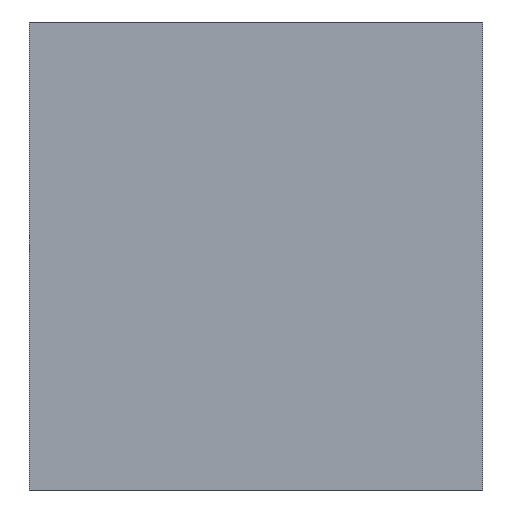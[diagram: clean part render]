
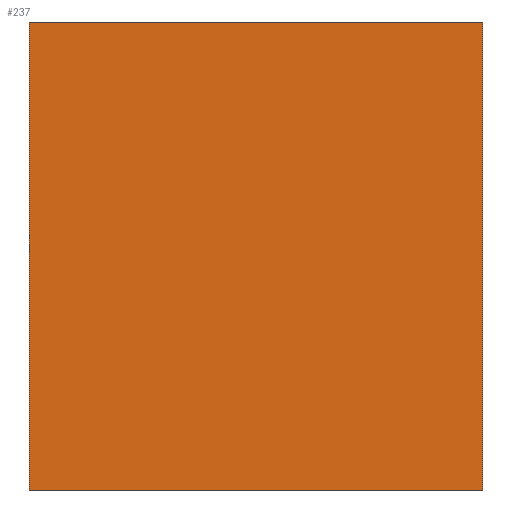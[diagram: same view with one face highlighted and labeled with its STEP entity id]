
A CAD part, front view. The second image highlights one B-rep face of the part: STEP entity #237.
In plain terms, the highlighted planar face has unit normal (0, -1, 0).
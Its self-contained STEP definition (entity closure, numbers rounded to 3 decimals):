
#21 = EDGE_CURVE('',#22,#24,#26,.T.);
#22 = VERTEX_POINT('',#23);
#23 = CARTESIAN_POINT('',(-80.,-237.,122.5));
#24 = VERTEX_POINT('',#25);
#25 = CARTESIAN_POINT('',(-80.,-237.,287.5));
#26 = SURFACE_CURVE('',#27,(#31,#43),.PCURVE_S1.);
#27 = LINE('',#28,#29);
#28 = CARTESIAN_POINT('',(-80.,-237.,122.5));
#29 = VECTOR('',#30,1.);
#30 = DIRECTION('',(0.,0.,1.));
#31 = PCURVE('',#32,#37);
#32 = PLANE('',#33);
#33 = AXIS2_PLACEMENT_3D('',#34,#35,#36);
#34 = CARTESIAN_POINT('',(-80.,-237.,122.5));
#35 = DIRECTION('',(1.,0.,0.));
#36 = DIRECTION('',(0.,0.,1.));
#37 = DEFINITIONAL_REPRESENTATION('',(#38),#42);
#38 = LINE('',#39,#40);
#39 = CARTESIAN_POINT('',(0.,0.));
#40 = VECTOR('',#41,1.);
#41 = DIRECTION('',(1.,0.));
#42 = ( GEOMETRIC_REPRESENTATION_CONTEXT(2) 
PARAMETRIC_REPRESENTATION_CONTEXT() REPRESENTATION_CONTEXT('2D SPACE',''
  ) );
#43 = PCURVE('',#44,#49);
#44 = PLANE('',#45);
#45 = AXIS2_PLACEMENT_3D('',#46,#47,#48);
#46 = CARTESIAN_POINT('',(-80.,-237.,122.5));
#47 = DIRECTION('',(0.,1.,0.));
#48 = DIRECTION('',(0.,0.,1.));
#49 = DEFINITIONAL_REPRESENTATION('',(#50),#54);
#50 = LINE('',#51,#52);
#51 = CARTESIAN_POINT('',(0.,0.));
#52 = VECTOR('',#53,1.);
#53 = DIRECTION('',(1.,0.));
#54 = ( GEOMETRIC_REPRESENTATION_CONTEXT(2) 
PARAMETRIC_REPRESENTATION_CONTEXT() REPRESENTATION_CONTEXT('2D SPACE',''
  ) );
#72 = PLANE('',#73);
#73 = AXIS2_PLACEMENT_3D('',#74,#75,#76);
#74 = CARTESIAN_POINT('',(-80.,-237.,122.5));
#75 = DIRECTION('',(0.,0.,1.));
#76 = DIRECTION('',(1.,0.,0.));
#126 = PLANE('',#127);
#127 = AXIS2_PLACEMENT_3D('',#128,#129,#130);
#128 = CARTESIAN_POINT('',(-80.,-237.,287.5));
#129 = DIRECTION('',(0.,0.,1.));
#130 = DIRECTION('',(1.,0.,0.));
#141 = EDGE_CURVE('',#142,#144,#146,.T.);
#142 = VERTEX_POINT('',#143);
#143 = CARTESIAN_POINT('',(80.,-237.,122.5));
#144 = VERTEX_POINT('',#145);
#145 = CARTESIAN_POINT('',(80.,-237.,287.5));
#146 = SURFACE_CURVE('',#147,(#151,#163),.PCURVE_S1.);
#147 = LINE('',#148,#149);
#148 = CARTESIAN_POINT('',(80.,-237.,122.5));
#149 = VECTOR('',#150,1.);
#150 = DIRECTION('',(0.,0.,1.));
#151 = PCURVE('',#152,#157);
#152 = PLANE('',#153);
#153 = AXIS2_PLACEMENT_3D('',#154,#155,#156);
#154 = CARTESIAN_POINT('',(80.,-237.,122.5));
#155 = DIRECTION('',(1.,0.,0.));
#156 = DIRECTION('',(0.,0.,1.));
#157 = DEFINITIONAL_REPRESENTATION('',(#158),#162);
#158 = LINE('',#159,#160);
#159 = CARTESIAN_POINT('',(0.,0.));
#160 = VECTOR('',#161,1.);
#161 = DIRECTION('',(1.,0.));
#162 = ( GEOMETRIC_REPRESENTATION_CONTEXT(2) 
PARAMETRIC_REPRESENTATION_CONTEXT() REPRESENTATION_CONTEXT('2D SPACE',''
  ) );
#163 = PCURVE('',#44,#164);
#164 = DEFINITIONAL_REPRESENTATION('',(#165),#169);
#165 = LINE('',#166,#167);
#166 = CARTESIAN_POINT('',(0.,160.));
#167 = VECTOR('',#168,1.);
#168 = DIRECTION('',(1.,0.));
#169 = ( GEOMETRIC_REPRESENTATION_CONTEXT(2) 
PARAMETRIC_REPRESENTATION_CONTEXT() REPRESENTATION_CONTEXT('2D SPACE',''
  ) );
#237 = ADVANCED_FACE('',(#238),#44,.F.);
#238 = FACE_BOUND('',#239,.F.);
#239 = EDGE_LOOP('',(#240,#261,#262,#283));
#240 = ORIENTED_EDGE('',*,*,#241,.F.);
#241 = EDGE_CURVE('',#22,#142,#242,.T.);
#242 = SURFACE_CURVE('',#243,(#247,#254),.PCURVE_S1.);
#243 = LINE('',#244,#245);
#244 = CARTESIAN_POINT('',(-80.,-237.,122.5));
#245 = VECTOR('',#246,1.);
#246 = DIRECTION('',(1.,0.,0.));
#247 = PCURVE('',#44,#248);
#248 = DEFINITIONAL_REPRESENTATION('',(#249),#253);
#249 = LINE('',#250,#251);
#250 = CARTESIAN_POINT('',(0.,0.));
#251 = VECTOR('',#252,1.);
#252 = DIRECTION('',(0.,1.));
#253 = ( GEOMETRIC_REPRESENTATION_CONTEXT(2) 
PARAMETRIC_REPRESENTATION_CONTEXT() REPRESENTATION_CONTEXT('2D SPACE',''
  ) );
#254 = PCURVE('',#72,#255);
#255 = DEFINITIONAL_REPRESENTATION('',(#256),#260);
#256 = LINE('',#257,#258);
#257 = CARTESIAN_POINT('',(0.,0.));
#258 = VECTOR('',#259,1.);
#259 = DIRECTION('',(1.,0.));
#260 = ( GEOMETRIC_REPRESENTATION_CONTEXT(2) 
PARAMETRIC_REPRESENTATION_CONTEXT() REPRESENTATION_CONTEXT('2D SPACE',''
  ) );
#261 = ORIENTED_EDGE('',*,*,#21,.T.);
#262 = ORIENTED_EDGE('',*,*,#263,.T.);
#263 = EDGE_CURVE('',#24,#144,#264,.T.);
#264 = SURFACE_CURVE('',#265,(#269,#276),.PCURVE_S1.);
#265 = LINE('',#266,#267);
#266 = CARTESIAN_POINT('',(-80.,-237.,287.5));
#267 = VECTOR('',#268,1.);
#268 = DIRECTION('',(1.,0.,0.));
#269 = PCURVE('',#44,#270);
#270 = DEFINITIONAL_REPRESENTATION('',(#271),#275);
#271 = LINE('',#272,#273);
#272 = CARTESIAN_POINT('',(165.,0.));
#273 = VECTOR('',#274,1.);
#274 = DIRECTION('',(0.,1.));
#275 = ( GEOMETRIC_REPRESENTATION_CONTEXT(2) 
PARAMETRIC_REPRESENTATION_CONTEXT() REPRESENTATION_CONTEXT('2D SPACE',''
  ) );
#276 = PCURVE('',#126,#277);
#277 = DEFINITIONAL_REPRESENTATION('',(#278),#282);
#278 = LINE('',#279,#280);
#279 = CARTESIAN_POINT('',(0.,0.));
#280 = VECTOR('',#281,1.);
#281 = DIRECTION('',(1.,0.));
#282 = ( GEOMETRIC_REPRESENTATION_CONTEXT(2) 
PARAMETRIC_REPRESENTATION_CONTEXT() REPRESENTATION_CONTEXT('2D SPACE',''
  ) );
#283 = ORIENTED_EDGE('',*,*,#141,.F.);
